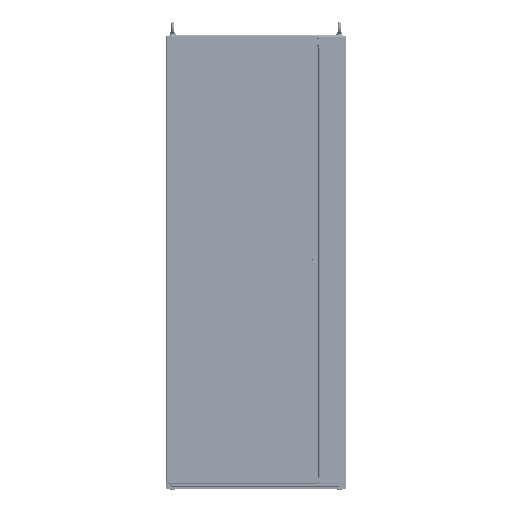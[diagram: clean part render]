
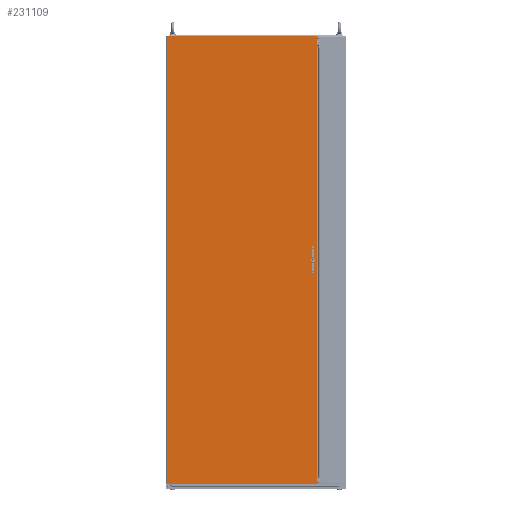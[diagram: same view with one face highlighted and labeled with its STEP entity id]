
A CAD part, top view. The second image highlights one B-rep face of the part: STEP entity #231109.
In plain terms, the highlighted planar face has unit normal (0, 0, 1).
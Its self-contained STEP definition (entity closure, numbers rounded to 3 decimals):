
#229258=DIRECTION('',(0.,1.,0.));
#229259=VECTOR('',#229258,1896.);
#229260=CARTESIAN_POINT('',(-330.5,-937.25,15.));
#229261=LINE('',#229260,#229259);
#229262=CARTESIAN_POINT('',(-314.5,43.75,15.));
#229263=DIRECTION('',(0.,0.,1.));
#229264=DIRECTION('',(1.,0.,0.));
#229265=AXIS2_PLACEMENT_3D('',#229262,#229263,#229264);
#229267=DIRECTION('',(0.,-1.,0.));
#229268=VECTOR('',#229267,27.5);
#229269=CARTESIAN_POINT('',(-319.4,43.75,15.));
#229270=LINE('',#229269,#229268);
#229271=CARTESIAN_POINT('',(-314.5,16.25,15.));
#229272=DIRECTION('',(0.,0.,1.));
#229273=DIRECTION('',(-1.,0.,0.));
#229274=AXIS2_PLACEMENT_3D('',#229271,#229272,#229273);
#229276=DIRECTION('',(0.,1.,0.));
#229277=VECTOR('',#229276,27.5);
#229278=CARTESIAN_POINT('',(-309.6,16.25,15.));
#229279=LINE('',#229278,#229277);
#229280=DIRECTION('',(0.,1.,0.));
#229281=VECTOR('',#229280,27.5);
#229282=CARTESIAN_POINT('',(-309.6,-43.75,15.));
#229283=LINE('',#229282,#229281);
#229284=CARTESIAN_POINT('',(-314.5,-16.25,15.));
#229285=DIRECTION('',(0.,0.,1.));
#229286=DIRECTION('',(1.,0.,0.));
#229287=AXIS2_PLACEMENT_3D('',#229284,#229285,#229286);
#229289=DIRECTION('',(0.,-1.,0.));
#229290=VECTOR('',#229289,27.5);
#229291=CARTESIAN_POINT('',(-319.4,-16.25,15.));
#229292=LINE('',#229291,#229290);
#229293=CARTESIAN_POINT('',(-314.5,-43.75,15.));
#229294=DIRECTION('',(0.,0.,1.));
#229295=DIRECTION('',(-1.,0.,0.));
#229296=AXIS2_PLACEMENT_3D('',#229293,#229294,#229295);
#229298=CARTESIAN_POINT('',(-314.5,56.,15.));
#229299=DIRECTION('',(0.,0.,1.));
#229300=DIRECTION('',(1.,0.,0.));
#229301=AXIS2_PLACEMENT_3D('',#229298,#229299,#229300);
#229303=CARTESIAN_POINT('',(-314.5,56.,15.));
#229304=DIRECTION('',(0.,0.,1.));
#229305=DIRECTION('',(-1.,0.,0.));
#229306=AXIS2_PLACEMENT_3D('',#229303,#229304,#229305);
#229308=CARTESIAN_POINT('',(-314.5,-56.,15.));
#229309=DIRECTION('',(0.,0.,1.));
#229310=DIRECTION('',(1.,0.,0.));
#229311=AXIS2_PLACEMENT_3D('',#229308,#229309,#229310);
#229313=CARTESIAN_POINT('',(-314.5,-56.,15.));
#229314=DIRECTION('',(0.,0.,1.));
#229315=DIRECTION('',(-1.,0.,0.));
#229316=AXIS2_PLACEMENT_3D('',#229313,#229314,#229315);
#229318=CARTESIAN_POINT('',(-314.5,0.,15.));
#229319=DIRECTION('',(0.,0.,1.));
#229320=DIRECTION('',(1.,0.,0.));
#229321=AXIS2_PLACEMENT_3D('',#229318,#229319,#229320);
#229323=CARTESIAN_POINT('',(-314.5,0.,15.));
#229324=DIRECTION('',(0.,0.,1.));
#229325=DIRECTION('',(-1.,0.,0.));
#229326=AXIS2_PLACEMENT_3D('',#229323,#229324,#229325);
#229328=DIRECTION('',(-1.,0.,0.));
#229329=VECTOR('',#229328,661.);
#229330=CARTESIAN_POINT('',(330.5,985.75,15.));
#229331=LINE('',#229330,#229329);
#229332=DIRECTION('',(0.,1.,0.));
#229333=VECTOR('',#229332,1971.5);
#229334=CARTESIAN_POINT('',(330.5,-985.75,15.));
#229335=LINE('',#229334,#229333);
#229336=DIRECTION('',(0.,-1.,0.));
#229337=VECTOR('',#229336,48.5);
#229338=CARTESIAN_POINT('',(-330.5,-937.25,15.));
#229339=LINE('',#229338,#229337);
#229340=DIRECTION('',(0.,-1.,0.));
#229341=VECTOR('',#229340,27.);
#229342=CARTESIAN_POINT('',(-330.5,985.75,15.));
#229343=LINE('',#229342,#229341);
#230232=DIRECTION('',(-1.,0.,0.));
#230233=VECTOR('',#230232,661.);
#230234=CARTESIAN_POINT('',(330.5,-985.75,15.));
#230235=LINE('',#230234,#230233);
#230625=CARTESIAN_POINT('',(330.5,-985.75,15.));
#230627=VERTEX_POINT('',#230625);
#230629=CARTESIAN_POINT('',(330.5,985.75,15.));
#230631=VERTEX_POINT('',#230629);
#230672=CARTESIAN_POINT('',(-309.6,43.75,15.));
#230673=CARTESIAN_POINT('',(-319.4,43.75,15.));
#230674=VERTEX_POINT('',#230672);
#230675=VERTEX_POINT('',#230673);
#230676=CARTESIAN_POINT('',(-319.4,16.25,15.));
#230677=VERTEX_POINT('',#230676);
#230678=CARTESIAN_POINT('',(-309.6,16.25,15.));
#230679=VERTEX_POINT('',#230678);
#230680=CARTESIAN_POINT('',(-309.6,-43.75,15.));
#230681=CARTESIAN_POINT('',(-309.6,-16.25,15.));
#230682=VERTEX_POINT('',#230680);
#230683=VERTEX_POINT('',#230681);
#230684=CARTESIAN_POINT('',(-319.4,-16.25,15.));
#230685=VERTEX_POINT('',#230684);
#230686=CARTESIAN_POINT('',(-319.4,-43.75,15.));
#230687=VERTEX_POINT('',#230686);
#230704=CARTESIAN_POINT('',(-310.5,56.,15.));
#230705=CARTESIAN_POINT('',(-318.5,56.,15.));
#230706=VERTEX_POINT('',#230704);
#230707=VERTEX_POINT('',#230705);
#230708=CARTESIAN_POINT('',(-310.5,-56.,15.));
#230709=CARTESIAN_POINT('',(-318.5,-56.,15.));
#230710=VERTEX_POINT('',#230708);
#230711=VERTEX_POINT('',#230709);
#230712=CARTESIAN_POINT('',(-306.75,0.,15.));
#230713=CARTESIAN_POINT('',(-322.25,0.,15.));
#230714=VERTEX_POINT('',#230712);
#230715=VERTEX_POINT('',#230713);
#230912=CARTESIAN_POINT('',(-330.5,985.75,15.));
#230913=CARTESIAN_POINT('',(-330.5,958.75,15.));
#230914=VERTEX_POINT('',#230912);
#230915=VERTEX_POINT('',#230913);
#230916=CARTESIAN_POINT('',(-330.5,-937.25,15.));
#230917=CARTESIAN_POINT('',(-330.5,-985.75,15.));
#230918=VERTEX_POINT('',#230916);
#230919=VERTEX_POINT('',#230917);
#231053=CARTESIAN_POINT('',(330.5,-985.75,15.));
#231054=DIRECTION('',(0.,0.,1.));
#231055=DIRECTION('',(-1.,0.,0.));
#231056=AXIS2_PLACEMENT_3D('',#231053,#231054,#231055);
#231057=PLANE('',#231056);
#231059=ORIENTED_EDGE('',*,*,#231058,.F.);
#231061=ORIENTED_EDGE('',*,*,#231060,.F.);
#231063=ORIENTED_EDGE('',*,*,#231062,.T.);
#231065=ORIENTED_EDGE('',*,*,#231064,.F.);
#231066=ORIENTED_EDGE('',*,*,#231045,.T.);
#231068=ORIENTED_EDGE('',*,*,#231067,.F.);
#231069=EDGE_LOOP('',(#231059,#231061,#231063,#231065,#231066,#231068));
#231070=FACE_OUTER_BOUND('',#231069,.F.);
#231072=ORIENTED_EDGE('',*,*,#231071,.T.);
#231074=ORIENTED_EDGE('',*,*,#231073,.T.);
#231076=ORIENTED_EDGE('',*,*,#231075,.T.);
#231078=ORIENTED_EDGE('',*,*,#231077,.T.);
#231079=EDGE_LOOP('',(#231072,#231074,#231076,#231078));
#231080=FACE_BOUND('',#231079,.F.);
#231082=ORIENTED_EDGE('',*,*,#231081,.T.);
#231084=ORIENTED_EDGE('',*,*,#231083,.T.);
#231085=EDGE_LOOP('',(#231082,#231084));
#231086=FACE_BOUND('',#231085,.F.);
#231088=ORIENTED_EDGE('',*,*,#231087,.T.);
#231090=ORIENTED_EDGE('',*,*,#231089,.T.);
#231091=EDGE_LOOP('',(#231088,#231090));
#231092=FACE_BOUND('',#231091,.F.);
#231094=ORIENTED_EDGE('',*,*,#231093,.T.);
#231096=ORIENTED_EDGE('',*,*,#231095,.T.);
#231097=EDGE_LOOP('',(#231094,#231096));
#231098=FACE_BOUND('',#231097,.F.);
#231100=ORIENTED_EDGE('',*,*,#231099,.T.);
#231102=ORIENTED_EDGE('',*,*,#231101,.T.);
#231104=ORIENTED_EDGE('',*,*,#231103,.T.);
#231106=ORIENTED_EDGE('',*,*,#231105,.T.);
#231107=EDGE_LOOP('',(#231100,#231102,#231104,#231106));
#231108=FACE_BOUND('',#231107,.F.);
#231109=ADVANCED_FACE('',(#231070,#231080,#231086,#231092,#231098,#231108),
#231057,.T.);
#229266=CIRCLE('',#229265,4.9);
#229275=CIRCLE('',#229274,4.9);
#229288=CIRCLE('',#229287,4.9);
#229297=CIRCLE('',#229296,4.9);
#229302=CIRCLE('',#229301,4.);
#229307=CIRCLE('',#229306,4.);
#229312=CIRCLE('',#229311,4.);
#229317=CIRCLE('',#229316,4.);
#229322=CIRCLE('',#229321,7.75);
#229327=CIRCLE('',#229326,7.75);
#231045=EDGE_CURVE('',#230918,#230915,#229261,.T.);
#231058=EDGE_CURVE('',#230631,#230914,#229331,.T.);
#231060=EDGE_CURVE('',#230627,#230631,#229335,.T.);
#231062=EDGE_CURVE('',#230627,#230919,#230235,.T.);
#231064=EDGE_CURVE('',#230918,#230919,#229339,.T.);
#231067=EDGE_CURVE('',#230914,#230915,#229343,.T.);
#231071=EDGE_CURVE('',#230682,#230683,#229283,.T.);
#231073=EDGE_CURVE('',#230683,#230685,#229288,.T.);
#231075=EDGE_CURVE('',#230685,#230687,#229292,.T.);
#231077=EDGE_CURVE('',#230687,#230682,#229297,.T.);
#231081=EDGE_CURVE('',#230706,#230707,#229302,.T.);
#231083=EDGE_CURVE('',#230707,#230706,#229307,.T.);
#231087=EDGE_CURVE('',#230710,#230711,#229312,.T.);
#231089=EDGE_CURVE('',#230711,#230710,#229317,.T.);
#231093=EDGE_CURVE('',#230714,#230715,#229322,.T.);
#231095=EDGE_CURVE('',#230715,#230714,#229327,.T.);
#231099=EDGE_CURVE('',#230674,#230675,#229266,.T.);
#231101=EDGE_CURVE('',#230675,#230677,#229270,.T.);
#231103=EDGE_CURVE('',#230677,#230679,#229275,.T.);
#231105=EDGE_CURVE('',#230679,#230674,#229279,.T.);
